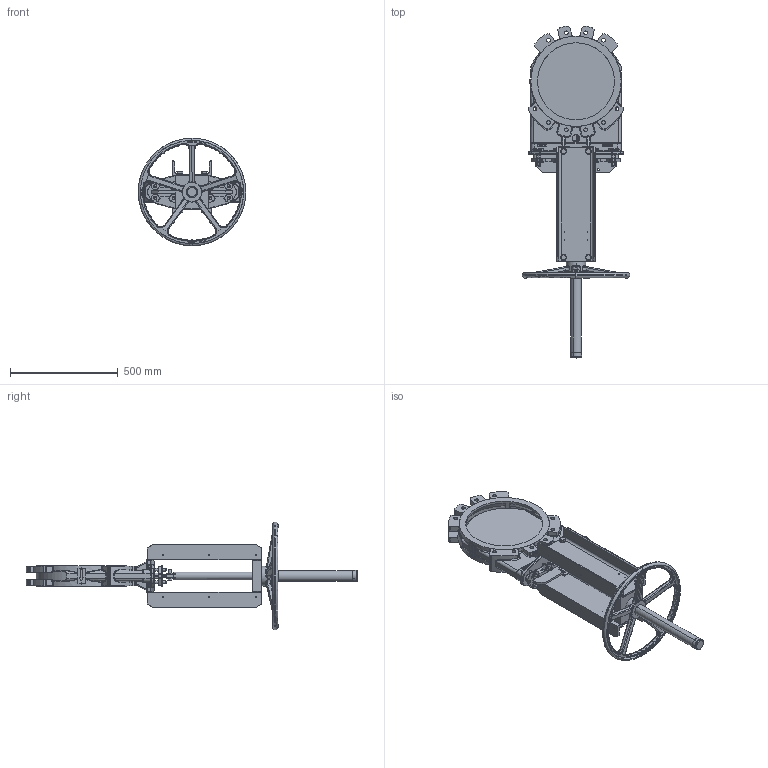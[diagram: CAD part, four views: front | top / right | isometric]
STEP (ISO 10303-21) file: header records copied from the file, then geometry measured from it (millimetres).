
FILE_DESCRIPTION (( 'STEP AP203' ), '1' );
FILE_NAME ('VG4400-00NI0350.STEP', '2024-06-10T07:02:50', ( '' ), ( '' ), 'SwSTEP 2.0', 'SolidWorks 2020', '' );
FILE_SCHEMA (( 'CONFIG_CONTROL_DESIGN' ));
Products named in the file (1): VG4400-00NI0350
Bounding box: 500 x 1544.16 x 500 mm (x, y, z)
Surface area: 2294534.4 mm2 (no closed solid volume)
Topology: 0 solids, 93 shells, 2022 faces, 7038 edges, 4739 vertices
Faces by surface type: cylinder 746, plane 556, bspline 420, torus 187, cone 72, sphere 41
Entity records: 117290 total; most frequent: CARTESIAN_POINT 61247, DIRECTION 11227, ORIENTED_EDGE 10942, EDGE_CURVE 6963, VERTEX_POINT 4737, AXIS2_PLACEMENT_3D 4211, VECTOR 2805, LINE 2805
